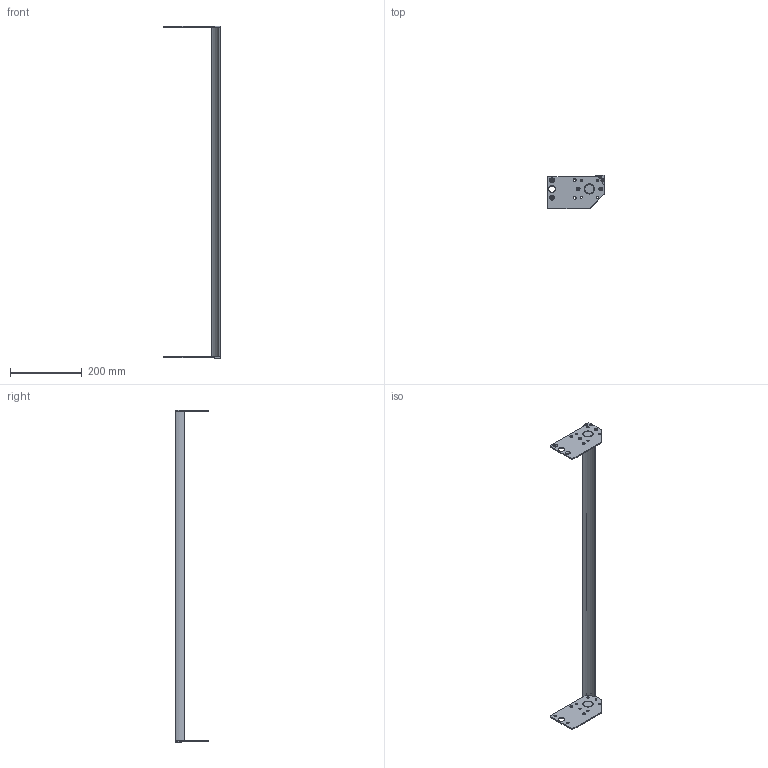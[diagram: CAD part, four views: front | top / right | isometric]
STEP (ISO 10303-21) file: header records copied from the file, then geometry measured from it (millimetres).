
FILE_DESCRIPTION((''),'2;1');
FILE_NAME('27M3300-30_ASM','2018-03-06T',('james.horst'),(''),'PRO/ENGINEER BY PARAMETRIC TECHNOLOGY CORPORATION, 2012420','PRO/ENGINEER BY PARAMETRIC TECHNOLOGY CORPORATION, 2012420','');
FILE_SCHEMA(('CONFIG_CONTROL_DESIGN'));
Length unit declared in the file: inch
Products named in the file (6): 350539-36; 350540; 350541; 930410M; 27M3300-10_ASM_1_ASM; 27M3300-30_ASM
Assembly tree (8 placements, depth 3):
  27M3300-30_ASM
    27M3300-10_ASM_1_ASM
      350539-36
      350540
      350541
      930410M  x4
Bounding box: 157.96 x 92.74 x 926.74 mm (x, y, z)
Volume: 337858.4 mm3; surface area: 158446.6 mm2
Topology: 7 solids, 11 shells, 206 faces, 556 edges, 368 vertices
Faces by surface type: cylinder 96, plane 70, cone 40
Entity records: 5540 total; most frequent: DIRECTION 1022, CARTESIAN_POINT 946, ORIENTED_EDGE 868, EDGE_CURVE 442, AXIS2_PLACEMENT_3D 408, VERTEX_POINT 296, CIRCLE 230, EDGE_LOOP 220
